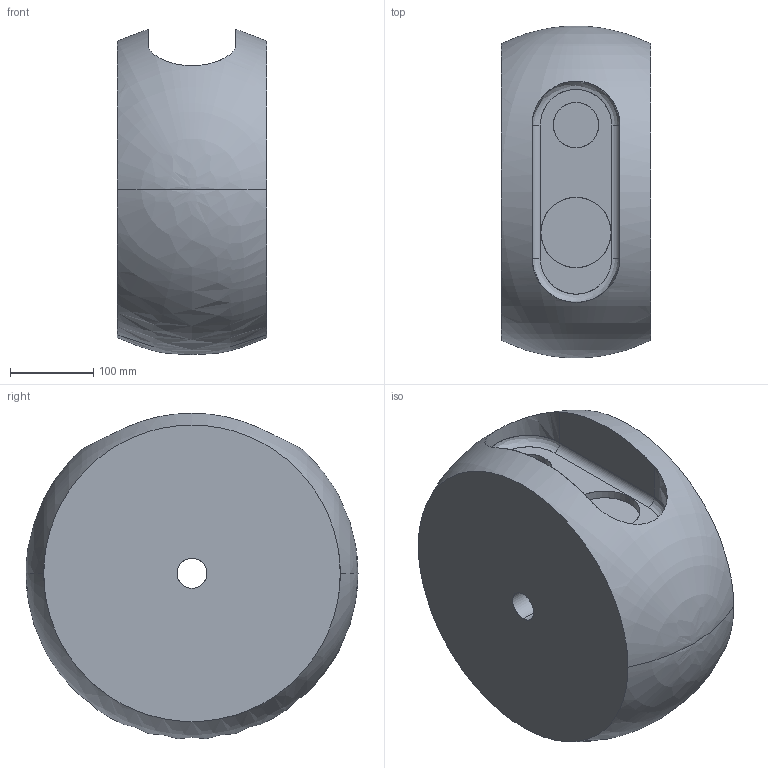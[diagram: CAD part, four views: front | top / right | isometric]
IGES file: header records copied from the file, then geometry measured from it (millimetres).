
Start section: SolidWorks IGES file using analytic representation for surfaces
Global section: file name: C:\Users\Martin\Desktop\Camera Turret\Camera Turret Camera Sectiion.IGS; native system: SolidWorks 2018; preprocessor: SolidWorks 2018; author: Martin; date: 180417.081623; units: millimetre
Bounding box: 180 x 400 x 392.1 mm (x, y, z)
Surface area: 478670.6 mm2 (no closed solid volume)
Topology: 0 solids, 0 shells, 21 faces, 894 edges, 893 vertices
Faces by surface type: revolution 12, bspline 9
